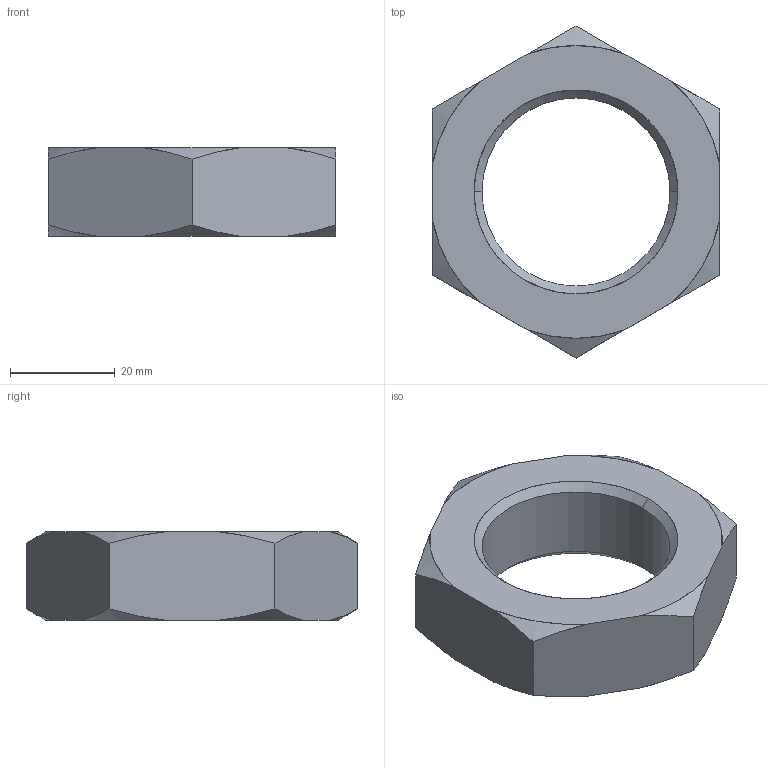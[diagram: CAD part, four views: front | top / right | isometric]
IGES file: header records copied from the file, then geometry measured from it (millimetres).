
Start section: SolidWorks IGES file using analytic representation for surfaces
Global section: file name: C:\Users\liam_\OneDrive\Desktop\Work\Mat Davis Pending 20181125\automotion\P SERIES\P0307.ZP_v2\P0307.ZP_v2_20181215_IGES\P0307.360-150-ZP.igs; native system: SolidWorks 2017; preprocessor: SolidWorks 2017; author: liam_; date: 181215.155219; units: millimetre
Bounding box: 55 x 63.51 x 16.9 mm (x, y, z)
Surface area: 7962.2 mm2 (no closed solid volume)
Topology: 0 solids, 0 shells, 26 faces, 416 edges, 416 vertices
Faces by surface type: revolution 18, bspline 8
